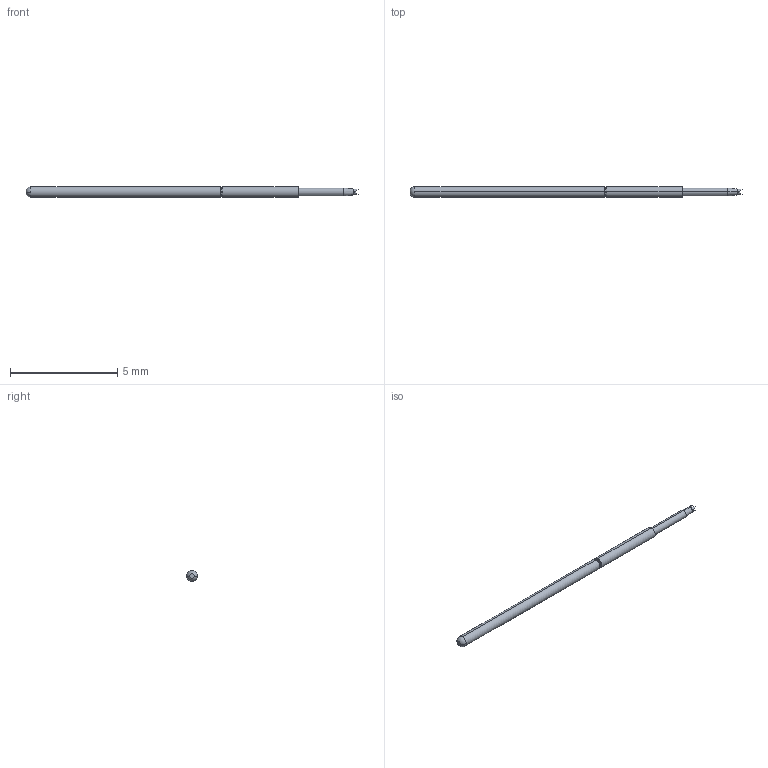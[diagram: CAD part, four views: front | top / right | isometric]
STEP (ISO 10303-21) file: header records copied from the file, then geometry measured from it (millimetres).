
FILE_DESCRIPTION (( 'STEP AP203' ), '1' );
FILE_NAME ('100426-011-942 (REST).STEP', '2023-01-03T09:10:21', ( '' ), ( '' ), 'SwSTEP 2.0', 'SolidWorks 2022', '' );
FILE_SCHEMA (( 'CONFIG_CONTROL_DESIGN' ));
Length unit declared in the file: inch
Products named in the file (1): 100426-011-942 (REST)
Bounding box: 15.49 x 0.51 x 0.51 mm (x, y, z)
Volume: 2.8 mm3; surface area: 23.6 mm2
Topology: 1 solids, 1 shells, 42 faces, 86 edges, 45 vertices
Faces by surface type: plane 14, cylinder 12, torus 8, cone 6, sphere 2
Entity records: 1149 total; most frequent: DIRECTION 208, CARTESIAN_POINT 196, ORIENTED_EDGE 168, AXIS2_PLACEMENT_3D 89, EDGE_CURVE 84, CIRCLE 46, VERTEX_POINT 45, EDGE_LOOP 43
